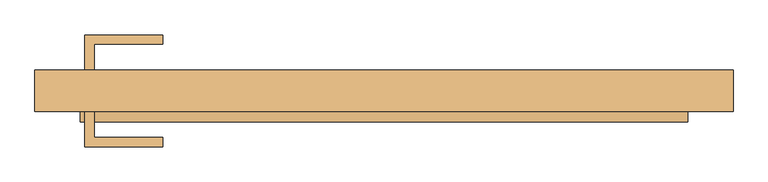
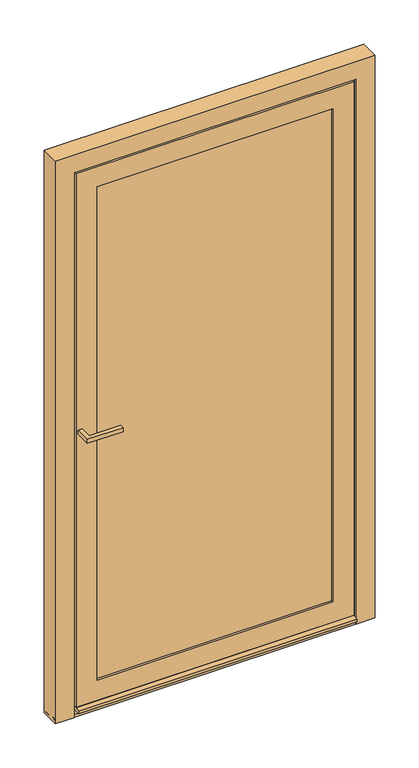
"""IFC4 building model written with IfcOpenShell, lengths in millimetres: door geometry, Reynaers_CS 77_Door_Miter_Inward Opening_Single Vent : Reynaers_CS 77_Door_Miter_Inward Opening_Single Vent."""

import ifcopenshell
import ifcopenshell.guid

model = None  # the IFC model being written
_history = None  # IfcOwnerHistory: only IFC2X3 demands one
_inside = {}  # id of a spatial element -> (the spatial element, [elements in it])
_under = {}  # id of a project, library or spatial element -> (it, [spatial elements below it])
_declared = {}  # id of a project -> (the project, [libraries it declares])
_typed = {}  # id of a type object -> (the type object, [elements of that type])
_made_of = {}  # id of a material, layer set ... -> (it, [elements and type objects made of it])


def new_model(schema):
    """Start an empty IFC model of exactly this schema.

    Asked for "IFC4X3", IfcOpenShell would pick the latest addendum, in which some entities
    have other attributes; the version numbers below select the first issue.
    IFC2X3 requires an IfcOwnerHistory on every rooted entity: one is made here for all.
    """
    global model, _history
    if schema == "IFC4X3":
        model = ifcopenshell.file(schema_version=(4, 3, 0, 0))
    else:
        model = ifcopenshell.file(schema=schema)
    _inside.clear()
    _under.clear()
    _declared.clear()
    _typed.clear()
    _made_of.clear()
    _history = None
    if model.schema == "IFC2X3":
        org = make("IfcOrganization", Name="unknown")
        user = make(
            "IfcPersonAndOrganization",
            ThePerson=make("IfcPerson", FamilyName="unknown"),
            TheOrganization=org,
        )
        app = make(
            "IfcApplication",
            ApplicationDeveloper=org,
            Version="unknown",
            ApplicationFullName="unknown",
            ApplicationIdentifier="unknown",
        )
        _history = make(
            "IfcOwnerHistory",
            OwningUser=user,
            OwningApplication=app,
            ChangeAction="ADDED",
            CreationDate=0,
        )
    return model


def make(cls, **values):
    """One entity of the class cls with the attributes given. An attribute that is None is left unset."""
    return model.create_entity(
        cls, **{name: value for name, value in values.items() if value is not None}
    )


def rooted(cls, **values):
    """An entity with a GlobalId (a new one), such as an element, a storey or a relation."""
    return make(cls, GlobalId=ifcopenshell.guid.new(), OwnerHistory=_history, **values)


def si_unit(unit_type, name, prefix=None):
    """IfcSIUnit, for example si_unit("LENGTHUNIT", "METRE", prefix="MILLI")."""
    return make("IfcSIUnit", UnitType=unit_type, Prefix=prefix, Name=name)


def assignment(units):
    """IfcUnitAssignment: the units of a project."""
    return None if units is None else make("IfcUnitAssignment", Units=units)


def point(xyz):
    """IfcCartesianPoint."""
    return None if xyz is None else make("IfcCartesianPoint", Coordinates=xyz)


def direction(xyz):
    """IfcDirection."""
    return None if xyz is None else make("IfcDirection", DirectionRatios=xyz)


def frame(location, z_axis=None, x_axis=None):
    """IfcAxis2Placement3D, a coordinate frame: its origin and axes. An axis left out is left unset."""
    return make(
        "IfcAxis2Placement3D",
        Location=point(location),
        Axis=direction(z_axis),
        RefDirection=direction(x_axis),
    )


def origin():
    """The frame at (0, 0, 0) with its axes left unset."""
    return frame((0.0, 0.0, 0.0))


def place(relative_to, where):
    """IfcLocalPlacement: puts the frame where relative to a parent placement (None: the world)."""
    return make(
        "IfcLocalPlacement", PlacementRelTo=relative_to, RelativePlacement=where
    )


def context(
    kind, dimensions, precision=None, world=None, true_north=None, identifier=None
):
    """IfcGeometricRepresentationContext, for example the 3D "Model" context."""
    return make(
        "IfcGeometricRepresentationContext",
        ContextIdentifier=identifier,
        ContextType=kind,
        CoordinateSpaceDimension=dimensions,
        Precision=precision,
        WorldCoordinateSystem=world,
        TrueNorth=true_north,
    )


def project(units=None, contexts=None):
    """IfcProject with its units and contexts."""
    return rooted(
        "IfcProject",
        Name="project",
        RepresentationContexts=contexts,
        UnitsInContext=assignment(units),
    )


def spatial(cls, under=None, at=None, **own):
    """A site, building, storey or space (cls), placed at a placement, below another one or the project."""
    s = rooted(cls, ObjectPlacement=at, **own)
    if under is not None:
        _under.setdefault(under.id(), (under, []))[1].append(s)
    return s


def polyline(points):
    """IfcPolyline through the points."""
    return make("IfcPolyline", Points=[point(p) for p in points])


def outline(outer, holes=None, kind="AREA"):
    """IfcArbitraryClosedProfileDef: a profile drawn as a closed curve; with holes, ...WithVoids."""
    if holes is None:
        return make("IfcArbitraryClosedProfileDef", ProfileType=kind, OuterCurve=outer)
    return make(
        "IfcArbitraryProfileDefWithVoids",
        ProfileType=kind,
        OuterCurve=outer,
        InnerCurves=holes,
    )


def extrude(swept, where, along, depth):
    """IfcExtrudedAreaSolid: the profile swept, set in the frame where, extruded along a direction by depth."""
    return make(
        "IfcExtrudedAreaSolid",
        SweptArea=swept,
        Position=where,
        ExtrudedDirection=direction(along),
        Depth=depth,
    )


def faces_of(points, faces, orient=None, outer=None):
    """IfcFace entities. A face is a list of loops; a loop is a list of indices into points, from 0.

    orient and outer hold one flag for each loop. By default every Orientation is true, the
    first loop of a face is its IfcFaceOuterBound and the others are IfcFaceBound.
    """
    made = []
    for i, loops in enumerate(faces):
        bounds = []
        for j, loop in enumerate(loops):
            is_outer = j == 0 if outer is None else outer[i][j]
            bounds.append(
                make(
                    "IfcFaceOuterBound" if is_outer else "IfcFaceBound",
                    Bound=make("IfcPolyLoop", Polygon=[points[k] for k in loop]),
                    Orientation=True if orient is None else orient[i][j],
                )
            )
        made.append(make("IfcFace", Bounds=bounds))
    return made


def faceted_brep(points, faces, orient=None, outer=None, voids=None):
    """IfcFacetedBrep: a solid bounded by flat faces; with voids (closed shells), ...WithVoids."""
    shared = [point(p) for p in points]
    hull = make("IfcClosedShell", CfsFaces=faces_of(shared, faces, orient, outer))
    if voids is None:
        return make("IfcFacetedBrep", Outer=hull)
    return make(
        "IfcFacetedBrepWithVoids",
        Outer=hull,
        Voids=[
            make(cls, CfsFaces=faces_of(shared, fs, o, b)) for cls, fs, o, b in voids
        ],
    )


def shape(context_of_items, identifier, shape_type, items):
    """IfcShapeRepresentation: the items that make up one representation, for example the "Body"."""
    return make(
        "IfcShapeRepresentation",
        ContextOfItems=context_of_items,
        RepresentationIdentifier=identifier,
        RepresentationType=shape_type,
        Items=items,
    )


def source(mapping_origin, context_of_items, identifier, shape_type, items):
    """IfcRepresentationMap: a shape defined once, which mapped items show again and again."""
    return make(
        "IfcRepresentationMap",
        MappingOrigin=mapping_origin,
        MappedRepresentation=shape(context_of_items, identifier, shape_type, items),
    )


def transform(
    local_origin,
    x_axis=None,
    y_axis=None,
    z_axis=None,
    scale=None,
    scale2=None,
    scale3=None,
    uniform=True,
):
    """IfcCartesianTransformationOperator3D, or its non-uniform kind. x_axis, y_axis, z_axis: its Axis1, 2, 3."""
    if uniform:
        return make(
            "IfcCartesianTransformationOperator3D",
            Axis1=direction(x_axis),
            Axis2=direction(y_axis),
            LocalOrigin=point(local_origin),
            Scale=scale,
            Axis3=direction(z_axis),
        )
    return make(
        "IfcCartesianTransformationOperator3DnonUniform",
        Axis1=direction(x_axis),
        Axis2=direction(y_axis),
        LocalOrigin=point(local_origin),
        Scale=scale,
        Axis3=direction(z_axis),
        Scale2=scale2,
        Scale3=scale3,
    )


def mapped(mapping_source, mapping_target):
    """IfcMappedItem: shows the shape of a source again, moved by a transform."""
    return make(
        "IfcMappedItem", MappingSource=mapping_source, MappingTarget=mapping_target
    )


def made_of(thing, what):
    """Note that an element or type object is made of a material, layer set ...; save() writes the relation."""
    if what is not None:
        _made_of.setdefault(what.id(), (what, []))[1].append(thing)
    return thing


def element(
    cls,
    number,
    at=None,
    inside=None,
    cuts=None,
    type_object=None,
    material=None,
    context=None,
    identifier="Body",
    shape_type=None,
    held_by="IfcProductDefinitionShape",
    body=None,
    shapes=None,
    **own,
):
    """One element of the class cls, such as IfcWall. Its Tag is "e" and its number.

    at: its placement. inside: the storey or other place that contains it. cuts: it is an
    opening in that element (IfcRelVoidsElement). A single representation is given by context,
    identifier, shape_type and body (its items); several are given by shapes. held_by: the class
    of the entity that holds the representations. save() writes the other relations.
    """
    e = rooted(cls, Tag="e%d" % number, ObjectPlacement=at, **own)
    if body is not None:
        shapes = [shape(context, identifier, shape_type, body)]
    if shapes is not None:
        e.Representation = make(held_by, Representations=shapes)
    if inside is not None:
        _inside.setdefault(inside.id(), (inside, []))[1].append(e)
    if cuts is not None:
        rooted(
            "IfcRelVoidsElement", RelatingBuildingElement=cuts, RelatedOpeningElement=e
        )
    if type_object is not None:
        _typed.setdefault(type_object.id(), (type_object, []))[1].append(e)
    return made_of(e, material)


def aggregate(whole, parts):
    """IfcRelAggregates: a whole, such as a stair, and the parts it consists of."""
    return rooted("IfcRelAggregates", RelatingObject=whole, RelatedObjects=parts)


def save(model, path):
    """Write the relations noted so far, then the file.

    IfcRelAggregates (storeys below a building ...), IfcRelContainedInSpatialStructure (elements
    in a storey), IfcRelDefinesByType, IfcRelAssociatesMaterial and IfcRelDeclares: one each for
    every whole, place, type object, material and project.
    """
    for whole, parts in _under.values():
        aggregate(whole, parts)
    for where, things in _inside.values():
        rooted(
            "IfcRelContainedInSpatialStructure",
            RelatedElements=things,
            RelatingStructure=where,
        )
    for kind, things in _typed.values():
        rooted("IfcRelDefinesByType", RelatedObjects=things, RelatingType=kind)
    for what, things in _made_of.values():
        rooted("IfcRelAssociatesMaterial", RelatedObjects=things, RelatingMaterial=what)
    for by, libraries in _declared.values():
        rooted("IfcRelDeclares", RelatingContext=by, RelatedDefinitions=libraries)
    model.write(path)


def door_422cb465(model_context):
    return source(origin(), model_context, "Body", "SolidModel", [
        extrude(outline(polyline([(-488.5, -80.0), (-473.5, -80.0), (-473.5, -122.5), (-361.0, -122.5), (-361.0, -137.5), (-488.5, -137.5), (-488.5, -80.0)])), frame((0.0, 0.0, 1062.5), z_axis=(0.0, 0.0, 1.0), x_axis=(1.0, 0.0, 0.0)), (0.0, 0.0, 1.0), 15.0),
        extrude(outline(polyline([(-488.5, -12.0), (-488.5, 45.5), (-361.0, 45.5), (-361.0, 30.5), (-473.5, 30.5), (-473.5, -12.0), (-488.5, -12.0)])), frame((0.0, 0.0, 1062.5), z_axis=(0.0, 0.0, 1.0), x_axis=(1.0, 0.0, 0.0)), (0.0, 0.0, 1.0), 15.0),
        extrude(outline(polyline([(439.0, -45.0), (439.0, -72.0), (-439.0, -72.0), (-439.0, -45.0), (439.0, -45.0)])), frame((0.0, 0.0, 93.5), z_axis=(0.0, 0.0, 1.0), x_axis=(1.0, 0.0, 0.0)), (0.0, 0.0, 1.0), 1895.5),
        faceted_brep([(445.0, -12.0, 1995.0), (445.0, -12.0, 87.5), (445.0, -72.0, 87.5), (445.0, -72.0, 1995.0), (-445.0, -72.0, 1995.0), (-445.0, -72.0, 87.5), (420.0, -72.0, 1970.0), (-420.0, -72.0, 1970.0), (-420.0, -72.0, 112.5), (420.0, -72.0, 112.5), (-445.0, -12.0, 87.5), (-522.0, -12.0, 2072.0), (522.0, -12.0, 2072.0), (522.0, -12.0, 10.5), (-522.0, -12.0, 10.5), (-445.0, -12.0, 1995.0), (522.0, -16.0, 2072.0), (522.0, -16.0, 10.5), (-522.0, -16.0, 10.5), (-522.0, -16.0, 2072.0), (-507.0, -16.0, 2057.0), (507.0, -16.0, 2057.0), (507.0, -16.0, 25.5), (-507.0, -16.0, 25.5), (-507.0, -70.2, 25.5), (-507.0, -70.2, 2057.0), (507.0, -70.2, 25.5), (507.0, -70.2, 2057.0), (-496.0, -70.2, 2046.0), (496.0, -70.2, 2046.0), (496.0, -70.2, 36.5), (-496.0, -70.2, 36.5), (496.0, -80.0, 2046.0), (496.0, -80.0, 36.5), (-496.0, -80.0, 36.5), (-496.0, -80.0, 2046.0), (-420.0, -80.0, 1970.0), (420.0, -80.0, 1970.0), (420.0, -80.0, 112.5), (-420.0, -80.0, 112.5)], [[[0, 1, 2, 3]], [[4, 3, 2, 5], [6, 7, 8, 9]], [[1, 10, 5, 2]], [[11, 12, 13, 14], [0, 15, 10, 1]], [[16, 17, 13, 12]], [[17, 18, 14, 13]], [[16, 19, 18, 17], [20, 21, 22, 23]], [[10, 15, 4, 5]], [[18, 19, 11, 14]], [[24, 25, 20, 23]], [[26, 24, 23, 22]], [[27, 26, 22, 21]], [[27, 25, 24, 26], [28, 29, 30, 31]], [[32, 33, 30, 29]], [[33, 34, 31, 30]], [[32, 35, 34, 33], [36, 37, 38, 39]], [[6, 9, 38, 37]], [[9, 8, 39, 38]], [[34, 35, 28, 31]], [[8, 7, 36, 39]], [[15, 0, 3, 4]], [[19, 16, 12, 11]], [[25, 27, 21, 20]], [[35, 32, 29, 28]], [[7, 6, 37, 36]]]),
        faceted_brep([(420.0, -12.0, 1970.0), (420.0, -12.0, 112.5), (420.0, -45.0, 112.5), (420.0, -45.0, 1970.0), (444.0, -45.0, 1994.0), (-444.0, -45.0, 1994.0), (-444.0, -45.0, 88.5), (444.0, -45.0, 88.5), (-420.0, -45.0, 1970.0), (-420.0, -45.0, 112.5), (-420.0, -12.0, 112.5), (-444.0, -12.0, 1994.0), (444.0, -12.0, 1994.0), (444.0, -12.0, 88.5), (-444.0, -12.0, 88.5), (-420.0, -12.0, 1970.0)], [[[0, 1, 2, 3]], [[4, 5, 6, 7], [8, 3, 2, 9]], [[1, 10, 9, 2]], [[11, 12, 13, 14], [0, 15, 10, 1]], [[4, 7, 13, 12]], [[7, 6, 14, 13]], [[10, 15, 8, 9]], [[6, 5, 11, 14]], [[15, 0, 3, 8]], [[5, 4, 12, 11]]]),
        faceted_brep([(-502.0, -76.2, 0.0), (-502.0, -80.0, 0.0), (-570.0, -80.0, 0.0), (-570.0, -12.0, 0.0), (-528.0, -12.0, 0.0), (-528.0, -21.8, 0.0), (-517.0, -21.8, 0.0), (-517.0, -76.2, 0.0), (-517.0, -76.2, 2067.0), (517.0, -76.2, 2067.0), (517.0, -76.2, 0.0), (502.0, -76.2, 0.0), (502.0, -76.2, 2052.0), (-502.0, -76.2, 2052.0), (-517.0, -21.8, 2067.0), (-528.0, -21.8, 2078.0), (528.0, -21.8, 2078.0), (528.0, -21.8, 0.0), (517.0, -21.8, 0.0), (517.0, -21.8, 2067.0), (-528.0, -12.0, 2078.0), (-570.0, -12.0, 2120.0), (570.0, -12.0, 2120.0), (570.0, -12.0, 0.0), (528.0, -12.0, 0.0), (528.0, -12.0, 2078.0), (-570.0, -80.0, 2120.0), (-502.0, -80.0, 2052.0), (502.0, -80.0, 2052.0), (502.0, -80.0, 0.0), (570.0, -80.0, 0.0), (570.0, -80.0, 2120.0)], [[[0, 1, 2, 3, 4, 5, 6, 7]], [[7, 8, 9, 10, 11, 12, 13, 0]], [[6, 14, 8, 7]], [[5, 15, 16, 17, 18, 19, 14, 6]], [[4, 20, 15, 5]], [[3, 21, 22, 23, 24, 25, 20, 4]], [[2, 26, 21, 3]], [[1, 27, 28, 29, 30, 31, 26, 2]], [[0, 13, 27, 1]], [[12, 11, 29, 28]], [[11, 10, 18, 17, 24, 23, 30, 29]], [[19, 18, 10, 9]], [[31, 30, 23, 22]], [[25, 24, 17, 16]], [[26, 31, 22, 21]], [[13, 12, 28, 27]], [[14, 19, 9, 8]], [[20, 25, 16, 15]]]),
        extrude(outline(polyline([(-80.0, 35.5), (-71.2, 35.5), (-71.2, 24.7), (-59.5, 24.7), (-59.5, 18.8954051), (-68.0064116, 18.8954051), (-68.0064116, 21.5), (-97.0, 21.5), (-97.0, 30.9448637), (-80.0, 35.5)])), frame((-496.0, 0.0, 0.0), z_axis=(1.0, 0.0, 0.0), x_axis=(0.0, 1.0, 0.0)), (0.0, 0.0, 1.0), 992.0),
        extrude(outline(polyline([(-12.0, 1.9998842), (-12.0, 1.0), (-80.0, 1.0), (-80.0, 11.8965841), (-69.0376477, 19.0941012), (-63.3950457, 10.5), (-21.0, 10.5), (-21.0, 2.4715542), (-12.0, 1.9998842)])), frame((-570.0, 0.0, 0.0), z_axis=(1.0, 0.0, 0.0), x_axis=(0.0, 1.0, 0.0)), (0.0, 0.0, 1.0), 1140.0),
    ])


if __name__ == "__main__":
    model = new_model("IFC4")
    model_context = context("Model", 3, world=origin())
    ifc_project = project(units=[si_unit("LENGTHUNIT", "METRE", prefix="MILLI")], contexts=[model_context])
    site = spatial("IfcSite", under=ifc_project)
    building = spatial("IfcBuilding", under=site)
    placement = place(None, origin())
    door_shape = door_422cb465(model_context)
    element("IfcDoor", 1, ObjectType="Reynaers_CS 77_Door_Miter_Inward Opening_Single Vent : Reynaers_CS 77_Door_Miter_Inward Opening_Single Vent", at=placement, inside=building, context=model_context, shape_type="MappedRepresentation", body=[
        mapped(door_shape, transform((0.0, 0.0, 0.0), x_axis=(1.0, 0.0, 0.0), y_axis=(0.0, 1.0, 0.0), z_axis=(0.0, 0.0, 1.0))),
    ])
    save(model, "model.ifc")
